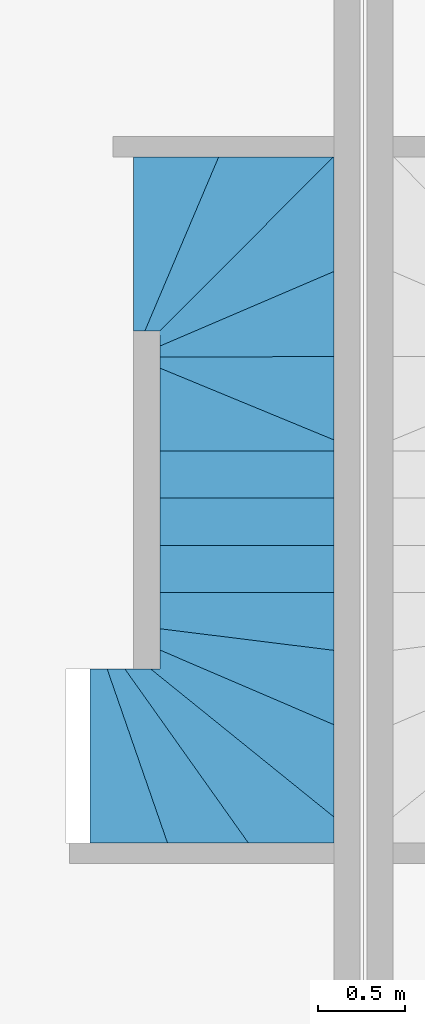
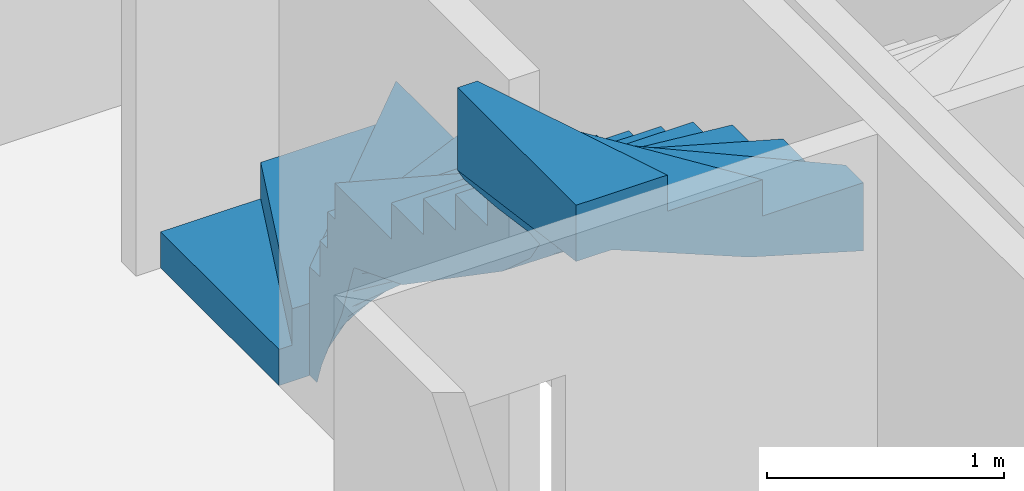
# One storey, part 3 of 8: 1 stair.
"""IFC2X3 building model written with IfcOpenShell, lengths in metres."""

from ifc_helpers import new_model, entity, si_unit, converted_unit, money_unit, direction, frame, origin_with_axes, place, context, subcontext, project, spatial, faceted_brep, source, transform, mapped, material, element, save


model = new_model("IFC2X3")

# Units and contexts
model_context = context("Model", 3, precision=1e-05, world=origin_with_axes(), true_north=direction((0.0, 1.0)))
body_context = subcontext(model_context, "Body", "Model", "MODEL_VIEW")
ifc_project = project(units=[si_unit("LENGTHUNIT", "METRE"), si_unit("AREAUNIT", "SQUARE_METRE"), si_unit("VOLUMEUNIT", "CUBIC_METRE"), converted_unit("PLANEANGLEUNIT", "DEGREE", entity("IfcPlaneAngleMeasure", 0.0174532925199), si_unit("PLANEANGLEUNIT", "RADIAN"), dimensions=[0, 0, 0, 0, 0, 0, 0]), si_unit("SOLIDANGLEUNIT", "STERADIAN"), money_unit("EUR"), si_unit("TIMEUNIT", "SECOND"), si_unit("MASSUNIT", "GRAM"), si_unit("THERMODYNAMICTEMPERATUREUNIT", "DEGREE_CELSIUS"), si_unit("LUMINOUSINTENSITYUNIT", "LUMEN")], contexts=[model_context])

# Site, building, storey
site_placement = place(None, origin_with_axes())
site = spatial("IfcSite", under=ifc_project, at=site_placement, Name="Gelände", CompositionType="ELEMENT")
building_placement = place(site_placement, origin_with_axes())
building = spatial("IfcBuilding", under=site, at=building_placement, Name="Gebäude", CompositionType="ELEMENT")
storey_placement = place(building_placement, origin_with_axes())
storey = spatial("IfcBuildingStorey", under=building, at=storey_placement, Name="Erdgeschoss", CompositionType="ELEMENT", Elevation=0.0)

# Stair
ifc_material = material(Name="Beton")
shared_shape = source(origin_with_axes(), body_context, "Body", "Brep", [
    faceted_brep([(0.0, 0.0, 0.0), (1.0, 0.0, 0.0), (1.0, 0.0, 0.005), (0.0, 0.0, 0.005), (1.0, 0.0375, 0.0), (1.0, 0.0375, 0.18667), (1.0, 0.0, 0.18667), (0.0, 0.0, 0.18667), (0.0, 0.03966, 0.18667), (0.0, 0.03966, 0.0), (1.0, 0.06362, 0.0), (1.0, 0.06362, 0.18667), (0.0, 0.48778, 0.18667), (0.0, 0.47586, 0.18667), (0.0, 0.43621, 0.18667), (0.0, 0.39655, 0.18667), (0.0, 0.3569, 0.18667), (0.0, 0.31724, 0.18667), (0.0, 0.27759, 0.18667), (0.0, 0.23793, 0.18667), (0.0, 0.19828, 0.18667), (0.0, 0.15862, 0.18667), (0.0, 0.11897, 0.18667), (0.0, 0.07931, 0.18667), (0.0, 0.07931, 0.0), (1.0, 0.14947, 0.0), (1.0, 0.075, 0.0), (1.0, 0.075, 0.37333), (1.0, 0.06362, 0.37333), (0.0, 0.48778, 0.37333), (0.0, 0.47586, 0.0), (0.0, 0.48778, 0.0), (0.0, 0.43621, 0.0), (0.0, 0.39655, 0.0), (0.0, 0.3569, 0.0), (0.0, 0.31724, 0.0), (0.0, 0.27759, 0.0), (0.0, 0.23793, 0.0), (0.0, 0.19828, 0.0), (0.0, 0.15862, 0.0), (0.0, 0.11897, 0.0), (1.0, 0.1125, 0.0), (1.0, 0.1125, 0.37333), (1.0, 0.14947, 0.37333), (0.0, 1.14594, 0.37333), (0.0, 1.11034, 0.37333), (0.0, 1.07069, 0.37333), (0.0, 1.03103, 0.37333), (0.0, 0.99138, 0.37333), (0.0, 0.95172, 0.37333), (0.0, 0.91207, 0.37333), (0.0, 0.87241, 0.37333), (0.0, 0.83276, 0.37333), (0.0, 0.7931, 0.37333), (0.0, 0.75345, 0.37333), (0.0, 0.71379, 0.37333), (0.0, 0.67414, 0.37333), (0.0, 0.63448, 0.37333), (0.0, 0.59483, 0.37333), (0.0, 0.5626, 0.37333), (0.0, 0.55517, 0.37333), (0.0, 0.51552, 0.37333), (0.0, 0.51552, 0.0), (1.0613, 0.15, 0.0), (1.0, 0.14947, 0.56), (0.0, 1.14594, 0.56), (0.0, 1.11034, 0.15496), (0.0, 1.14594, 0.16503), (0.0, 1.07069, 0.14374), (0.0, 1.03103, 0.13252), (0.0, 0.99138, 0.1213), (0.0, 0.95172, 0.11009), (0.0, 0.91207, 0.09887), (0.0, 0.87241, 0.08765), (0.0, 0.83276, 0.07643), (0.0, 0.7931, 0.06521), (0.0, 0.75345, 0.05399), (0.0, 0.71379, 0.04277), (0.0, 0.67414, 0.03155), (0.0, 0.63448, 0.02034), (0.0, 0.59483, 0.00912), (0.0, 0.5626, 0.0), (0.0, 0.55517, 0.0), (1.03959, 0.15, 0.0), (1.03959, 0.15, 0.56), (1.0613, 0.15, 0.56), (1.07918, 0.15, 0.56), (1.08574, 0.15, 0.56), (0.65732, 1.15, 0.56), (0.63677, 1.15, 0.56), (0.59697, 1.15, 0.56), (0.55717, 1.15, 0.56), (0.51737, 1.15, 0.56), (0.47758, 1.15, 0.56), (0.43778, 1.15, 0.56), (0.39798, 1.15, 0.56), (0.35818, 1.15, 0.56), (0.31838, 1.15, 0.56), (0.27859, 1.15, 0.56), (0.23879, 1.15, 0.56), (0.19899, 1.15, 0.56), (0.15919, 1.15, 0.56), (0.11939, 1.15, 0.56), (0.0796, 1.15, 0.56), (0.0398, 1.15, 0.56), (0.0, 1.15, 0.56), (0.0, 1.15, 0.16618), (1.11878, 0.15, 0.15398), (1.09962, 0.15, 0.11243), (1.08574, 0.15, 0.0717), (1.07918, 0.15, 0.05248), (1.08574, 0.15, 0.74667), (0.65732, 1.15, 0.74667), (0.63677, 1.15, 0.34633), (0.65732, 1.15, 0.35214), (0.59697, 1.15, 0.33507), (0.55717, 1.15, 0.32381), (0.51737, 1.15, 0.31255), (0.47758, 1.15, 0.30129), (0.43778, 1.15, 0.29003), (0.39798, 1.15, 0.27877), (0.35818, 1.15, 0.26751), (0.31838, 1.15, 0.25625), (0.27859, 1.15, 0.245), (0.23879, 1.15, 0.23374), (0.19899, 1.15, 0.22248), (0.15919, 1.15, 0.21122), (0.11939, 1.15, 0.19996), (0.0796, 1.15, 0.1887), (0.0398, 1.15, 0.17744), (1.09962, 0.15, 0.74667), (1.11878, 0.15, 0.74667), (1.14942, 0.15, 0.74667), (1.14554, 1.15, 0.74667), (1.11434, 1.15, 0.74667), (1.07455, 1.15, 0.74667), (1.03475, 1.15, 0.74667), (0.99495, 1.15, 0.74667), (0.95515, 1.15, 0.74667), (0.91535, 1.15, 0.74667), (0.87556, 1.15, 0.74667), (0.83576, 1.15, 0.74667), (0.79596, 1.15, 0.74667), (0.75616, 1.15, 0.74667), (0.72033, 1.15, 0.74667), (0.71636, 1.15, 0.74667), (0.67657, 1.15, 0.74667), (0.67657, 1.15, 0.35759), (1.21189, 0.15, 0.35593), (1.19796, 0.15, 0.32571), (1.15837, 0.15, 0.23985), (1.14942, 0.15, 0.22044), (1.14942, 0.15, 0.93333), (1.14554, 1.15, 0.93333), (1.11434, 1.15, 0.52217), (1.14554, 1.15, 0.53422), (1.07455, 1.15, 0.50679), (1.03475, 1.15, 0.49142), (0.99495, 1.15, 0.47605), (0.95515, 1.15, 0.46067), (0.91535, 1.15, 0.4453), (0.87556, 1.15, 0.42993), (0.83576, 1.15, 0.41456), (0.79596, 1.15, 0.39918), (0.75616, 1.15, 0.38381), (0.72033, 1.15, 0.36997), (0.71636, 1.15, 0.36885), (1.15837, 0.15, 0.93333), (1.19796, 0.15, 0.93333), (1.21189, 0.15, 0.93333), (1.62451, 1.15, 0.93333), (1.59192, 1.15, 0.93333), (1.55212, 1.15, 0.93333), (1.51232, 1.15, 0.93333), (1.47253, 1.15, 0.93333), (1.43273, 1.15, 0.93333), (1.39293, 1.15, 0.93333), (1.35313, 1.15, 0.93333), (1.31333, 1.15, 0.93333), (1.27354, 1.15, 0.93333), (1.23374, 1.15, 0.93333), (1.19394, 1.15, 0.93333), (1.15414, 1.15, 0.93333), (1.15414, 1.15, 0.53754), (1.27714, 0.15, 0.50173), (1.27166, 0.15, 0.48556), (1.23755, 0.15, 0.41158), (1.21189, 0.15, 1.12), (1.62451, 1.15, 1.12), (1.59192, 1.15, 0.70664), (1.62451, 1.15, 0.71923), (1.55212, 1.15, 0.69127), (1.51232, 1.15, 0.6759), (1.47253, 1.15, 0.66052), (1.43273, 1.15, 0.64515), (1.39293, 1.15, 0.62978), (1.35313, 1.15, 0.6144), (1.31333, 1.15, 0.59903), (1.27354, 1.15, 0.58366), (1.23374, 1.15, 0.56829), (1.19394, 1.15, 0.55291), (1.23755, 0.15, 1.12), (1.27166, 0.15, 1.12), (1.27714, 0.15, 1.12), (1.31673, 0.15, 1.12), (1.35633, 0.15, 1.12), (1.37187, 0.15, 1.12), (1.39592, 0.15, 1.12), (1.43551, 0.15, 1.12), (1.4751, 0.15, 1.12), (1.51469, 0.15, 1.12), (1.55429, 0.15, 1.12), (1.59388, 0.15, 1.12), (1.63347, 0.15, 1.12), (1.67306, 0.15, 1.12), (1.68892, 0.15, 1.12), (1.68892, 1.15, 1.12), (1.67152, 1.15, 1.12), (1.63172, 1.15, 1.12), (1.63172, 1.15, 0.72201), (1.35633, 0.15, 0.73532), (1.31673, 0.15, 0.61852), (1.37187, 0.15, 0.78117), (1.39592, 0.15, 0.79058), (1.43551, 0.15, 0.80607), (1.4751, 0.15, 0.82156), (1.51469, 0.15, 0.83706), (1.55429, 0.15, 0.85255), (1.59388, 0.15, 0.86804), (1.63347, 0.15, 0.88353), (1.67306, 0.15, 0.89903), (1.68892, 0.15, 0.90523), (1.68892, 0.15, 1.30667), (1.68892, 1.15, 1.30667), (1.67152, 1.15, 0.73739), (1.68892, 1.15, 0.74411), (1.71131, 1.15, 0.75276), (1.78338, 1.15, 0.7806), (1.79091, 1.15, 0.80242), (1.83071, 1.15, 0.91776), (1.71265, 0.15, 0.91452), (1.71265, 0.15, 1.30667), (1.75224, 0.15, 1.30667), (1.78338, 0.15, 1.30667), (1.79184, 0.15, 1.30667), (1.83143, 0.15, 1.30667), (1.87102, 0.15, 1.30667), (1.91061, 0.15, 1.30667), (1.9502, 0.15, 1.30667), (1.95964, 0.15, 1.30667), (1.95964, 1.15, 1.30667), (1.9501, 1.15, 1.30667), (1.9103, 1.15, 1.30667), (1.87051, 1.15, 1.30667), (1.85655, 1.15, 1.30667), (1.83071, 1.15, 1.30667), (1.79091, 1.15, 1.30667), (1.78338, 1.15, 1.30667), (1.75111, 1.15, 1.30667), (1.71131, 1.15, 1.30667), (1.75111, 1.15, 0.76813), (1.75224, 0.15, 0.93001), (1.78338, 0.15, 0.94219), (1.79184, 0.15, 0.94803), (1.83143, 0.15, 0.97533), (1.87102, 0.15, 1.00263), (1.91061, 0.15, 1.02993), (1.9502, 0.15, 1.05723), (1.95964, 0.15, 1.06373), (1.95964, 0.15, 1.49333), (1.95964, 1.15, 1.49333), (1.9501, 1.15, 1.05715), (1.95964, 1.15, 1.06373), (1.9103, 1.15, 1.02971), (1.87051, 1.15, 1.00227), (1.85655, 1.15, 0.99265), (1.9898, 0.15, 1.08452), (1.9898, 0.15, 1.49333), (2.02939, 0.15, 1.49333), (2.06898, 0.15, 1.49333), (2.10857, 0.15, 1.49333), (2.14816, 0.15, 1.49333), (2.18776, 0.15, 1.49333), (2.22735, 0.15, 1.49333), (2.23036, 0.15, 1.49333), (2.23036, 1.15, 1.49333), (2.22869, 1.15, 1.49333), (2.18889, 1.15, 1.49333), (2.14909, 1.15, 1.49333), (2.10929, 1.15, 1.49333), (2.06949, 1.15, 1.49333), (2.0297, 1.15, 1.49333), (1.9899, 1.15, 1.49333), (1.9899, 1.15, 1.0846), (2.02939, 0.15, 1.11182), (2.06898, 0.15, 1.13912), (2.10857, 0.15, 1.16642), (2.14816, 0.15, 1.19372), (2.18776, 0.15, 1.22102), (2.22735, 0.15, 1.24832), (2.23036, 0.15, 1.2504), (2.23036, 0.15, 1.68), (2.23036, 1.15, 1.68), (2.22869, 1.15, 1.24924), (2.23036, 1.15, 1.2504), (2.18889, 1.15, 1.2218), (2.14909, 1.15, 1.19436), (2.10929, 1.15, 1.16692), (2.06949, 1.15, 1.13948), (2.0297, 1.15, 1.11204), (2.26694, 0.15, 1.27562), (2.26694, 0.15, 1.68), (2.30653, 0.15, 1.68), (2.34612, 0.15, 1.68), (2.38571, 0.15, 1.68), (2.42531, 0.15, 1.68), (2.4649, 0.15, 1.68), (2.50108, 0.15, 1.68), (2.50108, 1.15, 1.68), (2.46747, 1.15, 1.68), (2.42768, 1.15, 1.68), (2.38788, 1.15, 1.68), (2.34808, 1.15, 1.68), (2.30828, 1.15, 1.68), (2.26848, 1.15, 1.68), (2.26848, 1.15, 1.27669), (2.30653, 0.15, 1.30292), (2.34612, 0.15, 1.33022), (2.38571, 0.15, 1.35752), (2.42531, 0.15, 1.38482), (2.4649, 0.15, 1.41212), (2.50108, 0.15, 1.43706), (2.50108, 0.15, 1.86667), (2.50108, 1.15, 1.86667), (2.46747, 1.15, 1.41389), (2.50108, 1.15, 1.43706), (2.42768, 1.15, 1.38645), (2.38788, 1.15, 1.35901), (2.34808, 1.15, 1.33157), (2.30828, 1.15, 1.30413), (2.50449, 0.15, 1.43942), (2.50449, 0.15, 1.86667), (2.54408, 0.15, 1.86667), (2.58367, 0.15, 1.86667), (2.62327, 0.15, 1.86667), (2.62502, 0.15, 1.86667), (2.66286, 0.15, 1.86667), (2.70245, 0.15, 1.86667), (2.70969, 0.15, 1.86667), (2.83391, 1.15, 1.86667), (2.82566, 1.15, 1.86667), (2.78586, 1.15, 1.86667), (2.74606, 1.15, 1.86667), (2.70626, 1.15, 1.86667), (2.66646, 1.15, 1.86667), (2.62667, 1.15, 1.86667), (2.60699, 1.15, 1.86667), (2.58687, 1.15, 1.86667), (2.54707, 1.15, 1.86667), (2.50727, 1.15, 1.86667), (2.50727, 1.15, 1.44134), (2.54408, 0.15, 1.46672), (2.58367, 0.15, 1.49401), (2.62327, 0.15, 1.52131), (2.62502, 0.15, 1.52253), (2.66286, 0.15, 1.55638), (2.70245, 0.15, 1.59181), (2.70969, 0.15, 1.59829), (2.70969, 0.15, 2.05333), (2.83391, 1.15, 2.05333), (2.82566, 1.15, 1.63273), (2.83391, 1.15, 1.63736), (2.78586, 1.15, 1.61041), (2.74606, 1.15, 1.58809), (2.70626, 1.15, 1.56577), (2.66646, 1.15, 1.54345), (2.62667, 1.15, 1.52113), (2.60699, 1.15, 1.51009), (2.58687, 1.15, 1.49622), (2.54707, 1.15, 1.46878), (2.74204, 0.15, 1.62724), (2.74204, 0.15, 2.05333), (2.78163, 0.15, 2.05333), (2.82122, 0.15, 2.05333), (2.83169, 0.15, 2.05333), (3.26091, 1.15, 2.05333), (3.22364, 1.15, 2.05333), (3.18384, 1.15, 2.05333), (3.14404, 1.15, 2.05333), (3.10424, 1.15, 2.05333), (3.06444, 1.15, 2.05333), (3.02465, 1.15, 2.05333), (2.98485, 1.15, 2.05333), (2.94505, 1.15, 2.05333), (2.9231, 1.15, 2.05333), (2.90525, 1.15, 2.05333), (2.86545, 1.15, 2.05333), (2.86545, 1.15, 1.65505), (2.78163, 0.15, 1.66266), (2.82122, 0.15, 1.69809), (2.83169, 0.15, 1.70745), (2.83169, 0.15, 2.24), (3.26091, 1.15, 2.24), (3.22364, 1.15, 1.81876), (3.26091, 1.15, 1.83506), (3.18384, 1.15, 1.80137), (3.14404, 1.15, 1.78397), (3.10424, 1.15, 1.76657), (3.06444, 1.15, 1.74917), (3.02465, 1.15, 1.73177), (2.98485, 1.15, 1.71438), (2.94505, 1.15, 1.69698), (2.9231, 1.15, 1.68738), (2.90525, 1.15, 1.67737), (2.86082, 0.15, 1.73352), (2.86082, 0.15, 2.24), (2.86269, 0.15, 2.24), (2.90041, 0.15, 2.24), (2.94, 0.15, 2.24), (2.94, 0.11364, 2.24), (2.94, 0.09828, 2.24), (2.94, 0.09667, 2.24), (3.79076, 1.15, 2.24), (3.78081, 1.15, 2.24), (3.74101, 1.15, 2.24), (3.70121, 1.15, 2.24), (3.66141, 1.15, 2.24), (3.62162, 1.15, 2.24), (3.58182, 1.15, 2.24), (3.54202, 1.15, 2.24), (3.50222, 1.15, 2.24), (3.46242, 1.15, 2.24), (3.42263, 1.15, 2.24), (3.38283, 1.15, 2.24), (3.34303, 1.15, 2.24), (3.33429, 1.15, 2.24), (3.30323, 1.15, 2.24), (3.26343, 1.15, 2.24), (3.26343, 1.15, 1.83616), (2.94, 0.15, 1.85348), (2.90041, 0.15, 1.79291), (2.86269, 0.15, 1.73519), (2.94, 0.11364, 1.90912), (2.94, 0.09828, 1.93262), (2.94, 0.09667, 1.93448), (2.94, 0.09667, 2.42667), (3.79076, 1.15, 2.42667), (3.78081, 1.15, 2.02445), (3.79076, 1.15, 2.02795), (3.74101, 1.15, 2.01042), (3.70121, 1.15, 1.9964), (3.66141, 1.15, 1.98238), (3.62162, 1.15, 1.96836), (3.58182, 1.15, 1.95434), (3.54202, 1.15, 1.94032), (3.50222, 1.15, 1.9263), (3.46242, 1.15, 1.91228), (3.42263, 1.15, 1.89826), (3.38283, 1.15, 1.88424), (3.34303, 1.15, 1.87022), (3.33429, 1.15, 1.86714), (3.30323, 1.15, 1.85356), (2.94, 0.07727, 1.95688), (2.94, 0.07727, 2.42667), (2.94, 0.04091, 2.42667), (2.94, 0.00455, 2.42667), (2.94, -0.03182, 2.42667), (2.94, -0.05125, 2.42667), (3.94, 0.65858, 2.42667), (3.94, 0.68333, 2.42667), (3.94, 0.72222, 2.42667), (3.94, 0.76111, 2.42667), (3.94, 0.8, 2.42667), (3.94, 0.83889, 2.42667), (3.94, 0.87778, 2.42667), (3.94, 0.91667, 2.42667), (3.94, 0.95556, 2.42667), (3.94, 0.99444, 2.42667), (3.94, 1.03333, 2.42667), (3.94, 1.07222, 2.42667), (3.94, 1.11111, 2.42667), (3.94, 1.15, 2.42667), (3.9002, 1.15, 2.42667), (3.8604, 1.15, 2.42667), (3.85201, 1.15, 2.42667), (3.82061, 1.15, 2.42667), (3.82061, 1.15, 2.03847), (2.94, 0.00455, 2.04086), (2.94, 0.04091, 1.99887), (2.94, -0.03182, 2.08286), (2.94, -0.05125, 2.1053), (2.94, -0.05125, 2.61333), (3.94, 0.65858, 2.61333), (3.94, 0.68333, 2.21114), (3.94, 0.65858, 2.21835), (3.94, 0.72222, 2.19981), (3.94, 0.76111, 2.18848), (3.94, 0.8, 2.17715), (3.94, 0.83889, 2.16581), (3.94, 0.87778, 2.15448), (3.94, 0.91667, 2.14315), (3.94, 0.95556, 2.13182), (3.94, 0.99444, 2.12049), (3.94, 1.03333, 2.10916), (3.94, 1.07222, 2.09783), (3.94, 1.11111, 2.0865), (3.94, 1.15, 2.07517), (3.9002, 1.15, 2.06357), (3.8604, 1.15, 2.05198), (3.85201, 1.15, 2.04953), (2.94, -0.05738, 2.11237), (2.94, -0.05738, 2.61333), (2.94, -0.06818, 2.61333), (2.94, -0.10455, 2.61333), (2.94, -0.14091, 2.61333), (2.94, -0.15282, 2.61333), (3.94, 0.19426, 2.61333), (3.94, 0.21667, 2.61333), (3.94, 0.25556, 2.61333), (3.94, 0.29444, 2.61333), (3.94, 0.33333, 2.61333), (3.94, 0.37222, 2.61333), (3.94, 0.41111, 2.61333), (3.94, 0.45, 2.61333), (3.94, 0.48889, 2.61333), (3.94, 0.52778, 2.61333), (3.94, 0.56667, 2.61333), (3.94, 0.59315, 2.61333), (3.94, 0.60556, 2.61333), (3.94, 0.64444, 2.61333), (3.94, 0.64444, 2.22247), (2.94, -0.14091, 2.21779), (2.94, -0.10455, 2.1719), (2.94, -0.06818, 2.12601), (2.94, -0.15282, 2.23282), (2.94, -0.15282, 2.8), (3.94, 0.19426, 2.8), (3.94, 0.21667, 2.39075), (3.94, 0.19426, 2.39988), (3.94, 0.25556, 2.37491), (3.94, 0.29444, 2.35907), (3.94, 0.33333, 2.34324), (3.94, 0.37222, 2.3274), (3.94, 0.41111, 2.31156), (3.94, 0.45, 2.29572), (3.94, 0.48889, 2.27988), (3.94, 0.52778, 2.26404), (3.94, 0.56667, 2.2482), (3.94, 0.59315, 2.23742), (3.94, 0.60556, 2.2338), (2.94, -0.17727, 2.26368), (2.94, -0.17727, 2.8), (2.94, -0.21364, 2.8), (2.94, -0.21869, 2.8), (2.94, -0.25, 2.8), (3.94, -0.25, 2.8), (3.94, -0.21111, 2.8), (3.94, -0.17222, 2.8), (3.94, -0.13333, 2.8), (3.94, -0.09444, 2.8), (3.94, -0.07611, 2.8), (3.94, -0.05556, 2.8), (3.94, -0.01667, 2.8), (3.94, 0.02222, 2.8), (3.94, 0.06111, 2.8), (3.94, 0.1, 2.8), (3.94, 0.13889, 2.8), (3.94, 0.17778, 2.8), (3.94, 0.17778, 2.40659), (2.94, -0.25, 2.37348), (2.94, -0.21869, 2.31595), (2.94, -0.21364, 2.30957), (3.94, -0.25, 2.51), (3.94, -0.21111, 2.51), (3.94, -0.17222, 2.51), (3.94, -0.13333, 2.51), (3.94, -0.09444, 2.51), (3.94, -0.07611, 2.51), (3.94, -0.05556, 2.50163), (3.94, -0.01667, 2.48579), (3.94, 0.02222, 2.46995), (3.94, 0.06111, 2.45411), (3.94, 0.1, 2.43827), (3.94, 0.13889, 2.42243)], [[[0, 1, 2, 3]], [[1, 0, 4]], [[1, 4, 5, 6, 2]], [[3, 2, 6, 7]], [[0, 3, 7, 8, 9]], [[4, 0, 10]], [[4, 10, 11, 5]], [[7, 6, 5, 11, 12, 13, 14, 15, 16, 17, 18, 19, 20, 21, 22, 23, 8]], [[9, 8, 23, 24]], [[25, 0, 9]], [[10, 0, 26]], [[10, 26, 27, 28, 11]], [[12, 11, 28, 29]], [[30, 13, 12, 31]], [[32, 14, 13, 30]], [[33, 15, 14, 32]], [[34, 16, 15, 33]], [[35, 17, 16, 34]], [[36, 18, 17, 35]], [[37, 19, 18, 36]], [[38, 20, 19, 37]], [[39, 21, 20, 38]], [[40, 22, 21, 39]], [[24, 23, 22, 40]], [[25, 9, 24]], [[41, 0, 25]], [[26, 0, 41]], [[26, 41, 42, 27]], [[29, 28, 27, 42, 43, 44, 45, 46, 47, 48, 49, 50, 51, 52, 53, 54, 55, 56, 57, 58, 59, 60, 61]], [[31, 12, 29, 61, 62]], [[63, 30, 31]], [[63, 32, 30]], [[63, 33, 32]], [[63, 34, 33]], [[63, 35, 34]], [[63, 36, 35]], [[63, 37, 36]], [[63, 38, 37]], [[63, 39, 38]], [[25, 40, 39]], [[25, 24, 40]], [[41, 25, 43, 42]], [[44, 43, 64, 65]], [[66, 45, 44, 67]], [[68, 46, 45, 66]], [[69, 47, 46, 68]], [[70, 48, 47, 69]], [[71, 49, 48, 70]], [[72, 50, 49, 71]], [[73, 51, 50, 72]], [[74, 52, 51, 73]], [[75, 53, 52, 74]], [[76, 54, 53, 75]], [[77, 55, 54, 76]], [[78, 56, 55, 77]], [[79, 57, 56, 78]], [[80, 58, 57, 79]], [[81, 59, 58, 80]], [[82, 60, 59, 81]], [[62, 61, 60, 82]], [[63, 31, 62]], [[83, 39, 63]], [[25, 39, 83]], [[25, 83, 84, 64, 43]], [[65, 64, 84, 85, 86, 87, 88, 89, 90, 91, 92, 93, 94, 95, 96, 97, 98, 99, 100, 101, 102, 103, 104, 105]], [[67, 44, 65, 105, 106]], [[107, 66, 67]], [[107, 68, 66]], [[107, 69, 68]], [[108, 70, 69]], [[108, 71, 70]], [[108, 72, 71]], [[108, 73, 72]], [[109, 74, 73]], [[109, 75, 74]], [[110, 76, 75]], [[110, 77, 76]], [[110, 78, 77]], [[63, 79, 78]], [[63, 80, 79]], [[63, 81, 80]], [[63, 82, 81]], [[63, 62, 82]], [[83, 63, 85, 84]], [[63, 110, 86, 85]], [[110, 109, 87, 86]], [[88, 87, 111, 112]], [[113, 89, 88, 114]], [[115, 90, 89, 113]], [[116, 91, 90, 115]], [[117, 92, 91, 116]], [[118, 93, 92, 117]], [[119, 94, 93, 118]], [[120, 95, 94, 119]], [[121, 96, 95, 120]], [[122, 97, 96, 121]], [[123, 98, 97, 122]], [[124, 99, 98, 123]], [[125, 100, 99, 124]], [[126, 101, 100, 125]], [[127, 102, 101, 126]], [[128, 103, 102, 127]], [[129, 104, 103, 128]], [[106, 105, 104, 129]], [[107, 67, 106]], [[108, 69, 107]], [[109, 73, 108]], [[110, 75, 109]], [[63, 78, 110]], [[109, 108, 130, 111, 87]], [[112, 111, 130, 131, 132, 133, 134, 135, 136, 137, 138, 139, 140, 141, 142, 143, 144, 145, 146]], [[114, 88, 112, 146, 147]], [[148, 113, 114]], [[149, 115, 113]], [[149, 116, 115]], [[149, 117, 116]], [[149, 118, 117]], [[149, 119, 118]], [[149, 120, 119]], [[150, 121, 120]], [[150, 122, 121]], [[150, 123, 122]], [[150, 124, 123]], [[151, 125, 124]], [[151, 126, 125]], [[151, 127, 126]], [[151, 128, 127]], [[107, 129, 128]], [[107, 106, 129]], [[108, 107, 131, 130]], [[107, 151, 132, 131]], [[133, 132, 152, 153]], [[154, 134, 133, 155]], [[156, 135, 134, 154]], [[157, 136, 135, 156]], [[158, 137, 136, 157]], [[159, 138, 137, 158]], [[160, 139, 138, 159]], [[161, 140, 139, 160]], [[162, 141, 140, 161]], [[163, 142, 141, 162]], [[164, 143, 142, 163]], [[165, 144, 143, 164]], [[166, 145, 144, 165]], [[147, 146, 145, 166]], [[148, 114, 147]], [[149, 113, 148]], [[150, 120, 149]], [[151, 124, 150]], [[107, 128, 151]], [[151, 150, 167, 152, 132]], [[153, 152, 167, 168, 169, 170, 171, 172, 173, 174, 175, 176, 177, 178, 179, 180, 181, 182]], [[155, 133, 153, 182, 183]], [[184, 154, 155]], [[184, 156, 154]], [[184, 157, 156]], [[185, 158, 157]], [[185, 159, 158]], [[185, 160, 159]], [[186, 161, 160]], [[186, 162, 161]], [[186, 163, 162]], [[186, 164, 163]], [[148, 165, 164]], [[148, 166, 165]], [[148, 147, 166]], [[149, 148, 169, 168]], [[150, 149, 168, 167]], [[170, 169, 187, 188]], [[189, 171, 170, 190]], [[191, 172, 171, 189]], [[192, 173, 172, 191]], [[193, 174, 173, 192]], [[194, 175, 174, 193]], [[195, 176, 175, 194]], [[196, 177, 176, 195]], [[197, 178, 177, 196]], [[198, 179, 178, 197]], [[199, 180, 179, 198]], [[200, 181, 180, 199]], [[183, 182, 181, 200]], [[184, 155, 183]], [[185, 157, 184]], [[186, 160, 185]], [[148, 164, 186]], [[148, 186, 201, 187, 169]], [[188, 187, 201, 202, 203, 204, 205, 206, 207, 208, 209, 210, 211, 212, 213, 214, 215, 216, 217, 218]], [[190, 170, 188, 218, 219]], [[220, 189, 190]], [[220, 191, 189]], [[220, 192, 191]], [[221, 193, 192]], [[221, 194, 193]], [[221, 195, 194]], [[221, 196, 195]], [[221, 197, 196]], [[221, 198, 197]], [[221, 199, 198]], [[221, 200, 199]], [[184, 183, 200]], [[185, 184, 203, 202]], [[186, 185, 202, 201]], [[184, 221, 204, 203]], [[221, 220, 205, 204]], [[220, 222, 206, 205]], [[222, 223, 207, 206]], [[223, 224, 208, 207]], [[224, 225, 209, 208]], [[225, 226, 210, 209]], [[226, 227, 211, 210]], [[227, 228, 212, 211]], [[228, 229, 213, 212]], [[229, 230, 214, 213]], [[230, 231, 215, 214]], [[216, 215, 232, 233]], [[234, 217, 216, 235]], [[219, 218, 217, 234]], [[220, 190, 219]], [[221, 192, 220]], [[184, 200, 221]], [[220, 236, 222]], [[222, 237, 223]], [[223, 238, 224]], [[224, 238, 225]], [[225, 238, 226]], [[226, 238, 227]], [[227, 239, 228]], [[228, 239, 229]], [[229, 239, 230]], [[230, 239, 231]], [[231, 240, 241, 232, 215]], [[233, 232, 241, 242, 243, 244, 245, 246, 247, 248, 249, 250, 251, 252, 253, 254, 255, 256, 257, 258, 259]], [[235, 216, 233, 259, 236]], [[220, 234, 235]], [[220, 219, 234]], [[220, 235, 236]], [[222, 236, 260]], [[222, 260, 237]], [[223, 237, 238]], [[227, 238, 239]], [[231, 239, 240]], [[240, 261, 242, 241]], [[261, 262, 243, 242]], [[262, 263, 244, 243]], [[263, 264, 245, 244]], [[264, 265, 246, 245]], [[265, 266, 247, 246]], [[266, 267, 248, 247]], [[267, 268, 249, 248]], [[250, 249, 269, 270]], [[271, 251, 250, 272]], [[273, 252, 251, 271]], [[274, 253, 252, 273]], [[275, 254, 253, 274]], [[239, 255, 254, 275]], [[238, 256, 255, 239]], [[237, 257, 256, 238]], [[260, 258, 257, 237]], [[236, 259, 258, 260]], [[240, 239, 261]], [[261, 239, 262]], [[262, 239, 263]], [[263, 275, 264]], [[264, 275, 265]], [[265, 273, 266]], [[266, 271, 267]], [[267, 272, 268]], [[268, 276, 277, 269, 249]], [[270, 269, 277, 278, 279, 280, 281, 282, 283, 284, 285, 286, 287, 288, 289, 290, 291, 292]], [[272, 250, 270, 292, 293]], [[267, 271, 272]], [[266, 273, 271]], [[265, 274, 273]], [[265, 275, 274]], [[263, 239, 275]], [[268, 272, 276]], [[276, 294, 278, 277]], [[294, 295, 279, 278]], [[295, 296, 280, 279]], [[296, 297, 281, 280]], [[297, 298, 282, 281]], [[298, 299, 283, 282]], [[299, 300, 284, 283]], [[285, 284, 301, 302]], [[303, 286, 285, 304]], [[305, 287, 286, 303]], [[306, 288, 287, 305]], [[307, 289, 288, 306]], [[308, 290, 289, 307]], [[309, 291, 290, 308]], [[293, 292, 291, 309]], [[276, 272, 293]], [[276, 293, 294]], [[294, 309, 295]], [[295, 308, 296]], [[296, 307, 297]], [[297, 306, 298]], [[298, 305, 299]], [[299, 303, 300]], [[300, 310, 311, 301, 284]], [[302, 301, 311, 312, 313, 314, 315, 316, 317, 318, 319, 320, 321, 322, 323, 324]], [[304, 285, 302, 324, 325]], [[300, 303, 304]], [[299, 305, 303]], [[298, 306, 305]], [[297, 307, 306]], [[296, 308, 307]], [[295, 309, 308]], [[294, 293, 309]], [[300, 304, 310]], [[310, 326, 312, 311]], [[326, 327, 313, 312]], [[327, 328, 314, 313]], [[328, 329, 315, 314]], [[329, 330, 316, 315]], [[330, 331, 317, 316]], [[318, 317, 332, 333]], [[334, 319, 318, 335]], [[336, 320, 319, 334]], [[337, 321, 320, 336]], [[338, 322, 321, 337]], [[339, 323, 322, 338]], [[325, 324, 323, 339]], [[310, 304, 325]], [[310, 325, 326]], [[326, 339, 327]], [[327, 338, 328]], [[328, 337, 329]], [[329, 336, 330]], [[330, 334, 331]], [[331, 340, 341, 332, 317]], [[333, 332, 341, 342, 343, 344, 345, 346, 347, 348, 349, 350, 351, 352, 353, 354, 355, 356, 357, 358, 359]], [[335, 318, 333, 359, 360]], [[331, 334, 335]], [[330, 336, 334]], [[329, 337, 336]], [[328, 338, 337]], [[327, 339, 338]], [[326, 325, 339]], [[331, 335, 340]], [[340, 361, 342, 341]], [[361, 362, 343, 342]], [[362, 363, 344, 343]], [[363, 364, 345, 344]], [[364, 365, 346, 345]], [[365, 366, 347, 346]], [[366, 367, 348, 347]], [[349, 348, 368, 369]], [[370, 350, 349, 371]], [[372, 351, 350, 370]], [[373, 352, 351, 372]], [[374, 353, 352, 373]], [[375, 354, 353, 374]], [[376, 355, 354, 375]], [[377, 356, 355, 376]], [[378, 357, 356, 377]], [[379, 358, 357, 378]], [[360, 359, 358, 379]], [[340, 335, 360]], [[340, 360, 361]], [[361, 379, 362]], [[362, 377, 363]], [[363, 376, 364]], [[364, 375, 365]], [[365, 374, 366]], [[366, 373, 367]], [[367, 380, 381, 368, 348]], [[369, 368, 381, 382, 383, 384, 385, 386, 387, 388, 389, 390, 391, 392, 393, 394, 395, 396]], [[371, 349, 369, 396, 397]], [[380, 370, 371]], [[380, 372, 370]], [[367, 373, 372]], [[366, 374, 373]], [[365, 375, 374]], [[364, 376, 375]], [[363, 377, 376]], [[362, 378, 377]], [[362, 379, 378]], [[361, 360, 379]], [[367, 372, 380]], [[380, 398, 382, 381]], [[398, 399, 383, 382]], [[399, 400, 384, 383]], [[385, 384, 401, 402]], [[403, 386, 385, 404]], [[405, 387, 386, 403]], [[406, 388, 387, 405]], [[407, 389, 388, 406]], [[408, 390, 389, 407]], [[409, 391, 390, 408]], [[410, 392, 391, 409]], [[411, 393, 392, 410]], [[412, 394, 393, 411]], [[413, 395, 394, 412]], [[397, 396, 395, 413]], [[398, 371, 397]], [[380, 371, 398]], [[398, 413, 399]], [[399, 411, 400]], [[400, 414, 415, 401, 384]], [[402, 401, 415, 416, 417, 418, 419, 420, 421, 422, 423, 424, 425, 426, 427, 428, 429, 430, 431, 432, 433, 434, 435, 436, 437]], [[404, 385, 402, 437, 438]], [[439, 403, 404]], [[440, 405, 403]], [[440, 406, 405]], [[440, 407, 406]], [[441, 408, 407]], [[441, 409, 408]], [[414, 410, 409]], [[400, 411, 410]], [[399, 412, 411]], [[399, 413, 412]], [[398, 397, 413]], [[400, 410, 414]], [[414, 441, 416, 415]], [[441, 440, 417, 416]], [[440, 439, 418, 417]], [[439, 442, 419, 418]], [[442, 443, 420, 419]], [[443, 444, 421, 420]], [[422, 421, 445, 446]], [[447, 423, 422, 448]], [[449, 424, 423, 447]], [[450, 425, 424, 449]], [[451, 426, 425, 450]], [[452, 427, 426, 451]], [[453, 428, 427, 452]], [[454, 429, 428, 453]], [[455, 430, 429, 454]], [[456, 431, 430, 455]], [[457, 432, 431, 456]], [[458, 433, 432, 457]], [[459, 434, 433, 458]], [[460, 435, 434, 459]], [[461, 436, 435, 460]], [[438, 437, 436, 461]], [[439, 404, 438]], [[440, 403, 439]], [[441, 407, 440]], [[414, 409, 441]], [[439, 458, 442]], [[442, 455, 443]], [[443, 454, 444]], [[444, 462, 463, 445, 421]], [[446, 445, 463, 464, 465, 466, 467, 468, 469, 470, 471, 472, 473, 474, 475, 476, 477, 478, 479, 480, 481, 482, 483, 484, 485]], [[448, 422, 446, 485, 486]], [[487, 447, 448]], [[488, 449, 447]], [[488, 450, 449]], [[488, 451, 450]], [[462, 452, 451]], [[462, 453, 452]], [[462, 454, 453]], [[443, 455, 454]], [[442, 456, 455]], [[442, 457, 456]], [[442, 458, 457]], [[439, 459, 458]], [[439, 460, 459]], [[439, 461, 460]], [[439, 438, 461]], [[444, 454, 462]], [[462, 488, 464, 463]], [[488, 487, 465, 464]], [[487, 489, 466, 465]], [[489, 490, 467, 466]], [[468, 467, 491, 492]], [[493, 469, 468, 494]], [[495, 470, 469, 493]], [[496, 471, 470, 495]], [[497, 472, 471, 496]], [[498, 473, 472, 497]], [[499, 474, 473, 498]], [[500, 475, 474, 499]], [[501, 476, 475, 500]], [[502, 477, 476, 501]], [[503, 478, 477, 502]], [[504, 479, 478, 503]], [[505, 480, 479, 504]], [[506, 481, 480, 505]], [[507, 482, 481, 506]], [[508, 483, 482, 507]], [[509, 484, 483, 508]], [[486, 485, 484, 509]], [[487, 448, 486]], [[488, 447, 487]], [[462, 451, 488]], [[487, 507, 489]], [[489, 504, 490]], [[490, 510, 511, 491, 467]], [[492, 491, 511, 512, 513, 514, 515, 516, 517, 518, 519, 520, 521, 522, 523, 524, 525, 526, 527, 528, 529]], [[494, 468, 492, 529, 530]], [[531, 493, 494]], [[531, 495, 493]], [[532, 496, 495]], [[532, 497, 496]], [[532, 498, 497]], [[532, 499, 498]], [[533, 500, 499]], [[533, 501, 500]], [[533, 502, 501]], [[510, 503, 502]], [[490, 504, 503]], [[489, 505, 504]], [[489, 506, 505]], [[489, 507, 506]], [[487, 508, 507]], [[487, 509, 508]], [[487, 486, 509]], [[490, 503, 510]], [[510, 533, 512, 511]], [[533, 532, 513, 512]], [[532, 531, 514, 513]], [[531, 534, 515, 514]], [[516, 515, 535, 536]], [[537, 517, 516, 538]], [[539, 518, 517, 537]], [[540, 519, 518, 539]], [[541, 520, 519, 540]], [[542, 521, 520, 541]], [[543, 522, 521, 542]], [[544, 523, 522, 543]], [[545, 524, 523, 544]], [[546, 525, 524, 545]], [[547, 526, 525, 546]], [[548, 527, 526, 547]], [[549, 528, 527, 548]], [[530, 529, 528, 549]], [[531, 494, 530]], [[532, 495, 531]], [[533, 499, 532]], [[510, 502, 533]], [[531, 530, 534]], [[534, 550, 551, 535, 515]], [[536, 535, 551, 552, 553, 554, 555, 556, 557, 558, 559, 560, 561, 562, 563, 564, 565, 566, 567]], [[538, 516, 536, 567, 568]], [[569, 537, 538]], [[569, 539, 537]], [[569, 540, 539]], [[569, 541, 540]], [[570, 542, 541]], [[570, 543, 542]], [[571, 544, 543]], [[571, 545, 544]], [[550, 546, 545]], [[550, 547, 546]], [[534, 548, 547]], [[534, 549, 548]], [[534, 530, 549]], [[534, 547, 550]], [[550, 571, 552, 551]], [[571, 570, 553, 552]], [[570, 569, 554, 553]], [[569, 572, 555, 554]], [[573, 556, 555, 572]], [[574, 557, 556, 573]], [[575, 558, 557, 574]], [[576, 559, 558, 575]], [[577, 560, 559, 576]], [[578, 561, 560, 577]], [[579, 562, 561, 578]], [[580, 563, 562, 579]], [[581, 564, 563, 580]], [[582, 565, 564, 581]], [[583, 566, 565, 582]], [[568, 567, 566, 583]], [[569, 538, 568]], [[570, 541, 569]], [[571, 543, 570]], [[550, 545, 571]], [[569, 573, 572]], [[569, 574, 573]], [[569, 575, 574]], [[569, 576, 575]], [[569, 577, 576]], [[569, 578, 577]], [[569, 579, 578]], [[569, 580, 579]], [[569, 581, 580]], [[569, 582, 581]], [[569, 583, 582]], [[569, 568, 583]]]),
])
stair_placement = place(storey_placement, frame((11.0340175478, 0.987794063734, 0.0), z_axis=(0.0, 0.0, 1.0), x_axis=(0.0, -1.0, 0.0)))
element("IfcStair", 1, at=stair_placement, inside=storey, material=ifc_material, Name="Treppe A/ (EG-DG)", ShapeType="NOTDEFINED", context=body_context, shape_type="MappedRepresentation", body=[
    mapped(shared_shape, transform((0.0, 0.0, 0.0))),
])

save(model, "model.ifc")
